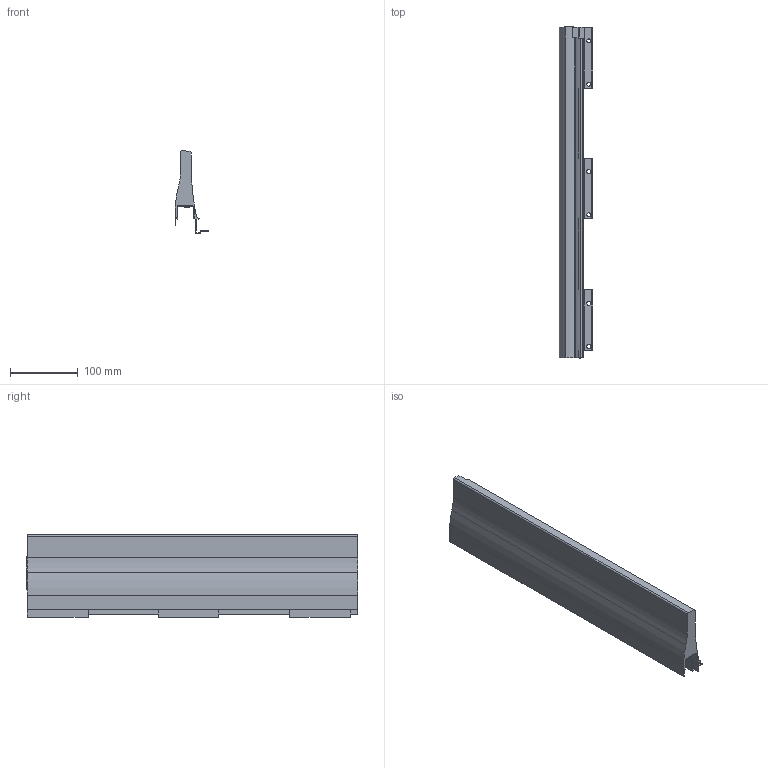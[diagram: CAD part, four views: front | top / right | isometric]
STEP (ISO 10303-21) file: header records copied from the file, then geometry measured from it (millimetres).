
FILE_DESCRIPTION (( 'STEP AP214' ), '1' );
FILE_NAME ('XP Standard Dekorseite H127 NL500 LI .step', '2010-09-21T09:46:27', ( 'grass' ), ( '' ), 'SwSTEP 2.0', 'SolidWorks 2010', '' );
FILE_SCHEMA (( 'AUTOMOTIVE_DESIGN' ));
Length unit declared in the file: millimetre
Products named in the file (1): XP Standard Dekorseite H127 NL500 LI  
Bounding box: 50.01 x 491.5 x 122 mm (x, y, z)
Volume: 848254 mm3; surface area: 193210.3 mm2
Topology: 1 solids, 1 shells, 135 faces, 396 edges, 258 vertices
Faces by surface type: plane 105, cylinder 30
Entity records: 4498 total; most frequent: ORIENTED_EDGE 792, CARTESIAN_POINT 790, DIRECTION 730, EDGE_CURVE 396, LINE 334, VECTOR 334, VERTEX_POINT 258, AXIS2_PLACEMENT_3D 198
